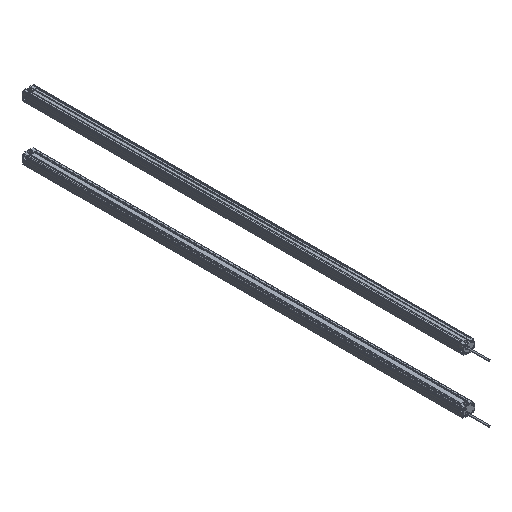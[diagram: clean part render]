
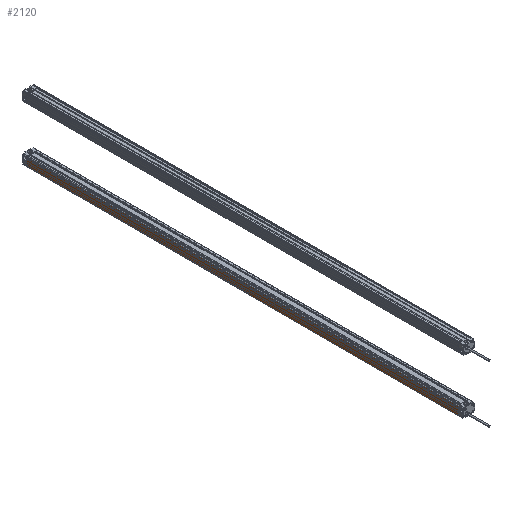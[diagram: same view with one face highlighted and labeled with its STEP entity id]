
A CAD part, isometric view. The second image highlights one B-rep face of the part: STEP entity #2120.
In plain terms, the highlighted planar face has unit normal (-1, 0, 0).
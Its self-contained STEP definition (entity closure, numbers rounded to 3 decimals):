
#821 = LINE ( 'NONE', #10776, #2529 ) ;
#859 = CARTESIAN_POINT ( 'NONE',  ( -12.5, -960., 8.293 ) ) ;
#961 = ORIENTED_EDGE ( 'NONE', *, *, #7167, .T. ) ;
#1293 = CARTESIAN_POINT ( 'NONE',  ( -12.5, -960., -9.2 ) ) ;
#1525 = DIRECTION ( 'NONE',  ( 0., 1., 0. ) ) ;
#1587 = DIRECTION ( 'NONE',  ( -1., 0., 0. ) ) ;
#1921 = DIRECTION ( 'NONE',  ( 0., 0., 1. ) ) ;
#2102 = EDGE_CURVE ( 'NONE', #8318, #2532, #6390, .T. ) ;
#2120 = ADVANCED_FACE ( 'NONE', ( #6911 ), #9254, .T. ) ;
#2529 = VECTOR ( 'NONE', #1525, 1000. ) ;
#2532 = VERTEX_POINT ( 'NONE', #3100 ) ;
#2578 = CARTESIAN_POINT ( 'NONE',  ( -12.5, -960., 8.293 ) ) ;
#2992 = VECTOR ( 'NONE', #1921, 1000. ) ;
#3100 = CARTESIAN_POINT ( 'NONE',  ( -12.5, 0., 8.293 ) ) ;
#3327 = VERTEX_POINT ( 'NONE', #1293 ) ;
#3364 = DIRECTION ( 'NONE',  ( 0., 1., 0. ) ) ;
#4365 = CARTESIAN_POINT ( 'NONE',  ( -12.5, 0., -9.2 ) ) ;
#4549 = ORIENTED_EDGE ( 'NONE', *, *, #2102, .F. ) ;
#4753 = EDGE_LOOP ( 'NONE', ( #4549, #10900, #10093, #961 ) ) ;
#4940 = VECTOR ( 'NONE', #3364, 1000. ) ;
#4945 = DIRECTION ( 'NONE',  ( 0., 0., 1. ) ) ;
#5210 = CARTESIAN_POINT ( 'NONE',  ( -12.5, -960., -9.2 ) ) ;
#5858 = CARTESIAN_POINT ( 'NONE',  ( -12.5, -960., -9.2 ) ) ;
#6310 = EDGE_CURVE ( 'NONE', #3327, #10767, #6929, .T. ) ;
#6390 = LINE ( 'NONE', #4365, #7828 ) ;
#6911 = FACE_OUTER_BOUND ( 'NONE', #4753, .T. ) ;
#6929 = LINE ( 'NONE', #5210, #2992 ) ;
#7167 = EDGE_CURVE ( 'NONE', #10767, #2532, #10791, .T. ) ;
#7206 = DIRECTION ( 'NONE',  ( 0., 0., 1. ) ) ;
#7784 = CARTESIAN_POINT ( 'NONE',  ( -12.5, 0., -9.2 ) ) ;
#7828 = VECTOR ( 'NONE', #7206, 1000. ) ;
#8318 = VERTEX_POINT ( 'NONE', #7784 ) ;
#8486 = AXIS2_PLACEMENT_3D ( 'NONE', #5858, #1587, #4945 ) ;
#9254 = PLANE ( 'NONE',  #8486 ) ;
#9663 = EDGE_CURVE ( 'NONE', #3327, #8318, #821, .T. ) ;
#10093 = ORIENTED_EDGE ( 'NONE', *, *, #6310, .T. ) ;
#10767 = VERTEX_POINT ( 'NONE', #2578 ) ;
#10776 = CARTESIAN_POINT ( 'NONE',  ( -12.5, -960., -9.2 ) ) ;
#10791 = LINE ( 'NONE', #859, #4940 ) ;
#10900 = ORIENTED_EDGE ( 'NONE', *, *, #9663, .F. ) ;
